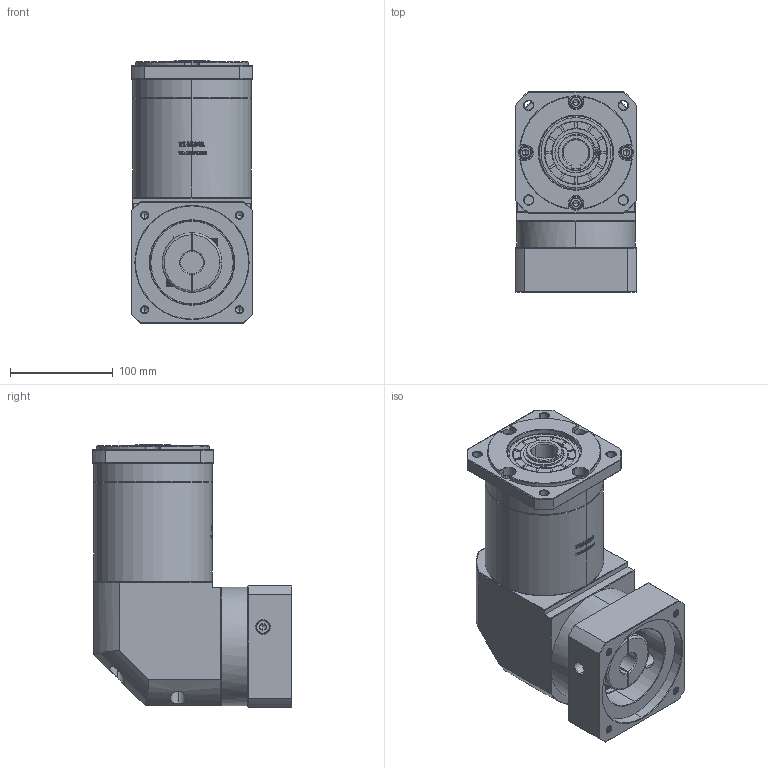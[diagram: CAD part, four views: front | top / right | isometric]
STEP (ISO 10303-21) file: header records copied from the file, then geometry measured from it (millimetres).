
FILE_DESCRIPTION (( 'STEP AP214' ), '1' );
FILE_NAME ('ZFR120A-K25-L3-22-110-130-M8.step', '2023-03-08T08:33:18', ( '' ), ( '' ), 'SwSTEP 2.0', 'SolidWorks 2016', '' );
FILE_SCHEMA (( 'AUTOMOTIVE_DESIGN' ));
Length unit declared in the file: millimetre
Products named in the file (1): ZFR120A-K25-L3-22-110-130-M8
Bounding box: 118 x 193.9 x 255 mm (x, y, z)
Volume: 3419599.6 mm3; surface area: 262812.4 mm2
Topology: 6 solids, 6 shells, 2815 faces, 7517 edges, 4847 vertices
Faces by surface type: plane 1477, bspline 598, cylinder 401, cone 331, torus 8
Entity records: 152383 total; most frequent: CARTESIAN_POINT 56848, ORIENTED_EDGE 14978, DIRECTION 10908, EDGE_CURVE 7489, VERTEX_POINT 4847, VECTOR 4696, LINE 4696, AXIS2_PLACEMENT_3D 3106
